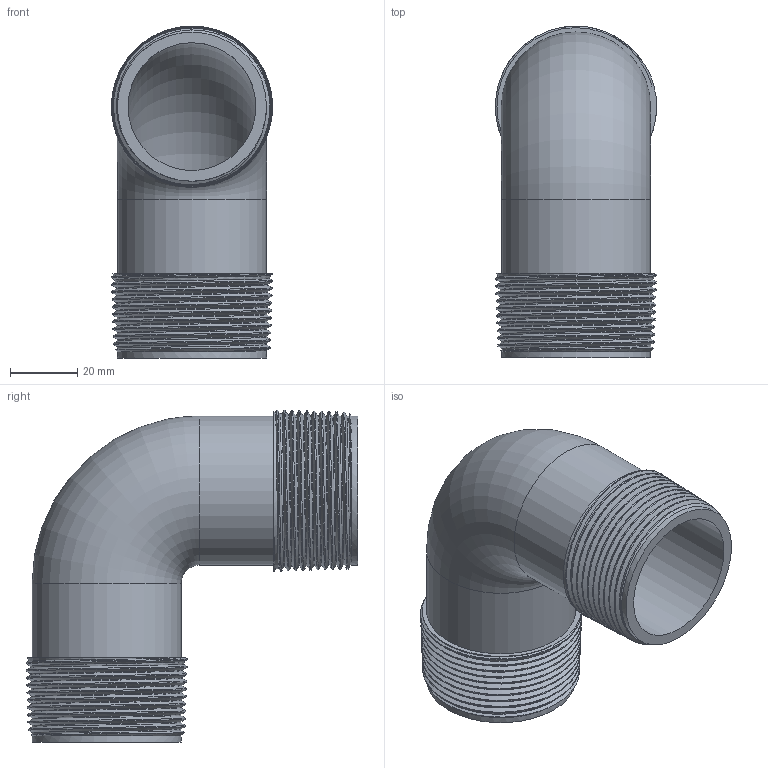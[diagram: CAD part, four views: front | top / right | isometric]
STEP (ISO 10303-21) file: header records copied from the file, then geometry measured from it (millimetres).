
FILE_DESCRIPTION(/* description */ ('Alibre Inc.'),/* implementation_level */ '2;1');
FILE_NAME(/* name */ 'export0',/* time_stamp */ '2016-11-29T15:05:24-05:00',/* author */ (''),/* organization */ (''),/* preprocessor_version */ 'ST-DEVELOPER v14',/* originating_system */ 'Alibre',/* authorisation */ '');
FILE_SCHEMA (('CONFIG_CONTROL_DESIGN'));
Length unit declared in the file: centimetre
Products named in the file (1): ID_2
Bounding box: 48.1 x 98.94 x 98.97 mm (x, y, z)
Volume: 62376.1 mm3; surface area: 41630.9 mm2
Topology: 1 solids, 1 shells, 86 faces, 243 edges, 161 vertices
Faces by surface type: cone 60, cylinder 13, bspline 6, plane 5, torus 2
Full cylindrical faces by diameter (mm): 38.1 x2, 44.45 x8
Entity records: 59961 total; most frequent: CARTESIAN_POINT 58152, ORIENTED_EDGE 420, DIRECTION 243, EDGE_CURVE 210, VERTEX_POINT 143, B_SPLINE_CURVE_WITH_KNOTS 129, AXIS2_PLACEMENT_3D 98, EDGE_LOOP 91
